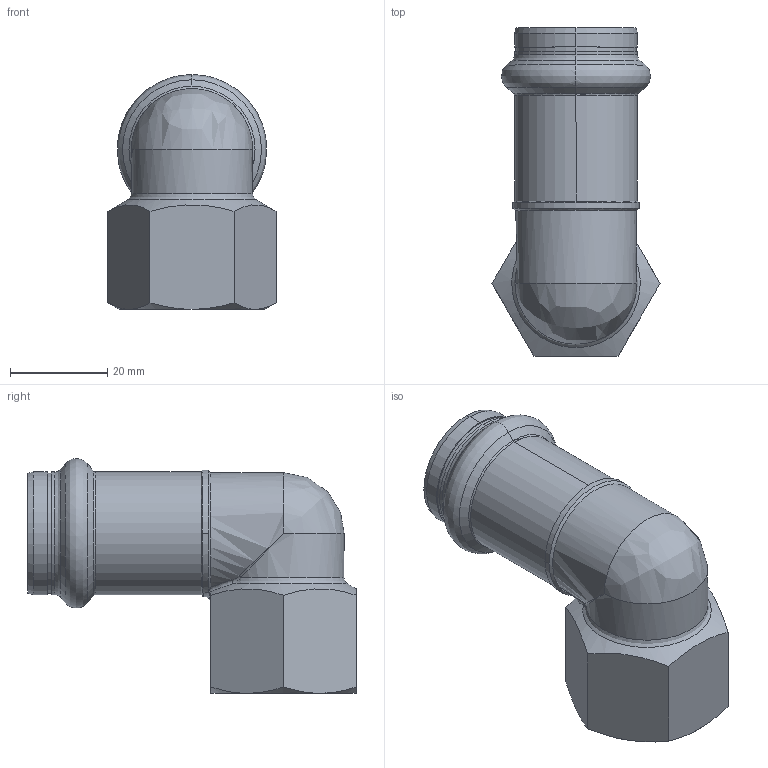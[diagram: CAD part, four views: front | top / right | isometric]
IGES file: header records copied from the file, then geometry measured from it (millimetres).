
Start section: Elysium IGES Interface
Global section: file name: F:\3d modellen sudo\S-Pr VP\SP6090GV\6090GVW2234.igs; native system: CoCreate Modeling 17.00A  17-Jun-2010; preprocessor: CoCreate IGES_3D V2.2; author: Unknown; organization: Unknown; date: 20130128.095720; units: millimetre
Bounding box: 34.64 x 67.7 x 48.39 mm (x, y, z)
Volume: 17807.9 mm3; surface area: 13972.6 mm2
Topology: 1 solids, 1 shells, 84 faces, 198 edges, 112 vertices
Faces by surface type: bspline 84
